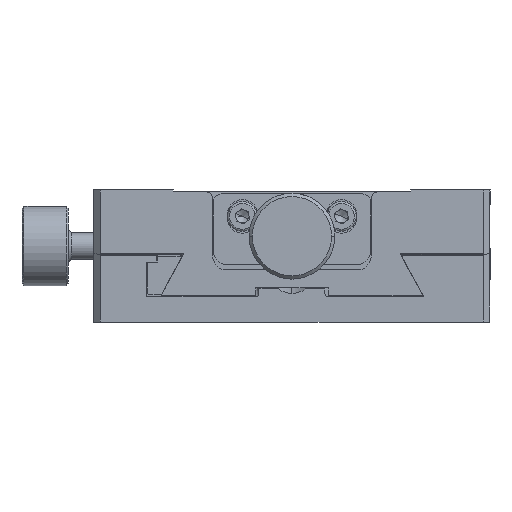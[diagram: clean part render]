
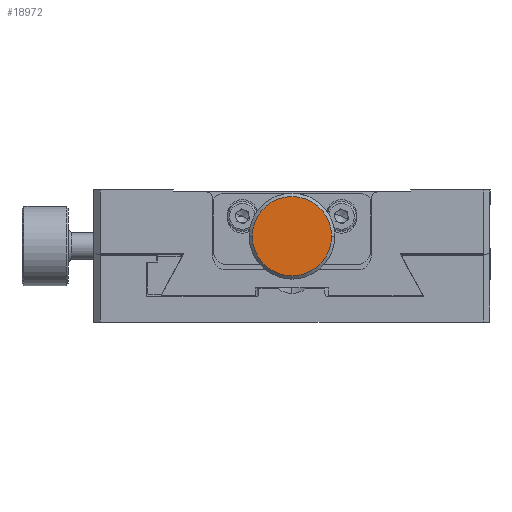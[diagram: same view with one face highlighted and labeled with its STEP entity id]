
A CAD part, left-side view. The second image highlights one B-rep face of the part: STEP entity #18972.
In plain terms, the highlighted planar face has unit normal (-1, 0, 0).
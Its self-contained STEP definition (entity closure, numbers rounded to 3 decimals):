
#1795 = VERTEX_POINT ( 'NONE', #30996 ) ;
#6010 = ORIENTED_EDGE ( 'NONE', *, *, #31598, .T. ) ;
#6364 = DIRECTION ( 'NONE',  ( 1., 0., 0. ) ) ;
#7158 = EDGE_LOOP ( 'NONE', ( #6010, #9986 ) ) ;
#7318 = DIRECTION ( 'NONE',  ( 0., 1., 0. ) ) ;
#9986 = ORIENTED_EDGE ( 'NONE', *, *, #19084, .T. ) ;
#10071 = CIRCLE ( 'NONE', #19147, 6. ) ;
#10629 = DIRECTION ( 'NONE',  ( 0., 1., 0. ) ) ;
#14753 = CARTESIAN_POINT ( 'NONE',  ( -49.55, 0., 93. ) ) ;
#17927 = PLANE ( 'NONE',  #20227 ) ;
#18972 = ADVANCED_FACE ( 'NONE', ( #28056 ), #17927, .F. ) ;
#19084 = EDGE_CURVE ( 'NONE', #34800, #1795, #34979, .T. ) ;
#19147 = AXIS2_PLACEMENT_3D ( 'NONE', #34125, #28815, #7318 ) ;
#20227 = AXIS2_PLACEMENT_3D ( 'NONE', #14753, #6364, #28400 ) ;
#26233 = CARTESIAN_POINT ( 'NONE',  ( -49.55, -6., 93. ) ) ;
#28056 = FACE_OUTER_BOUND ( 'NONE', #7158, .T. ) ;
#28400 = DIRECTION ( 'NONE',  ( 0., 1., 0. ) ) ;
#28815 = DIRECTION ( 'NONE',  ( -1., 0., 0. ) ) ;
#30996 = CARTESIAN_POINT ( 'NONE',  ( -49.55, 6., 93. ) ) ;
#31598 = EDGE_CURVE ( 'NONE', #1795, #34800, #10071, .T. ) ;
#33289 = AXIS2_PLACEMENT_3D ( 'NONE', #34925, #34585, #10629 ) ;
#34125 = CARTESIAN_POINT ( 'NONE',  ( -49.55, 0., 93. ) ) ;
#34585 = DIRECTION ( 'NONE',  ( -1., 0., 0. ) ) ;
#34800 = VERTEX_POINT ( 'NONE', #26233 ) ;
#34925 = CARTESIAN_POINT ( 'NONE',  ( -49.55, 0., 93. ) ) ;
#34979 = CIRCLE ( 'NONE', #33289, 6. ) ;
